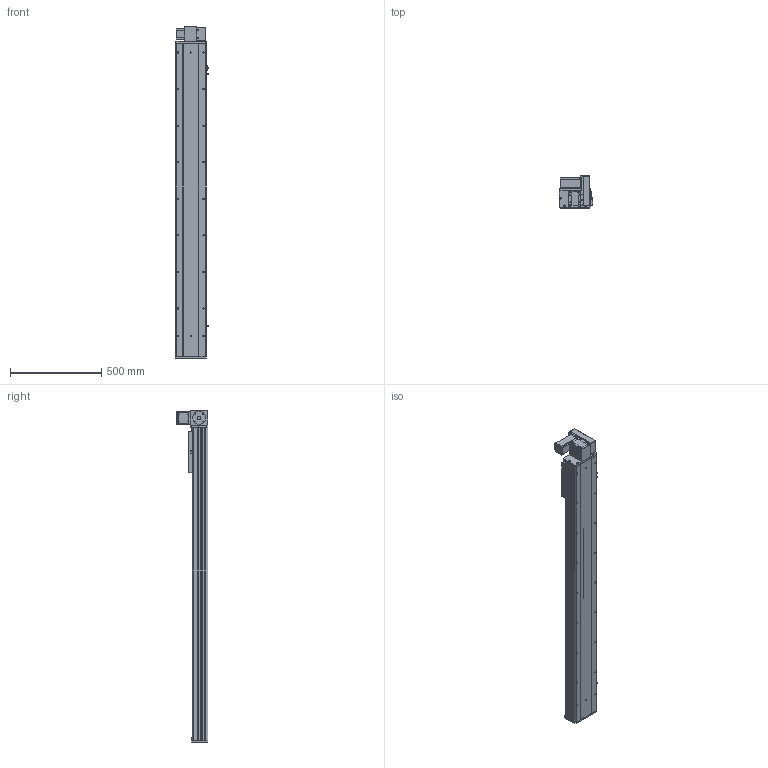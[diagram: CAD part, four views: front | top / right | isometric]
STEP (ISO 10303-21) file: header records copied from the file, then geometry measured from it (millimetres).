
FILE_DESCRIPTION (( 'STEP AP203' ), '1' );
FILE_NAME ('Y170CB-D105-S1400-UR-P400W.STEP', '2020-02-20T04:12:59', ( '微软用户' ), ( '微软中国' ), 'SwSTEP 2.0', 'SolidWorks 2017', '' );
FILE_SCHEMA (( 'CONFIG_CONTROL_DESIGN' ));
Length unit declared in the file: millimetre
Products named in the file (18): Y1埴倛裔; 70CB-耜裔啣-; 17B-耜蚾蟀諉啣----; 70C--詩湍揤踡え-; 00B-俋欶BM--163; 70CB--耜裔; 70B喘謫眊----; 70C-雄赽釱-奻-; B-源倛裔啣; Y170CB-D105-S1400-UR-P400W; 0C--雄赽釱俋欶-170; 0B-萇儂楊擘啣; 70CB-詩湍--; san松下电机400不带刹车----; Y100-135俋离換覜ん--; 70CB-掛极-; Y170CB-陔俋离換覜結え---; --70CB --喘謫眊楊擘啣-
Assembly tree (21 placements, depth 2):
  Y170CB-D105-S1400-UR-P400W
    B-源倛裔啣
    0B-萇儂楊擘啣
    san松下电机400不带刹车----
    70CB-掛极-
    --70CB --喘謫眊楊擘啣-
    70CB-耜裔啣-  x2
    70C--詩湍揤踡え-  x2
    70CB--耜裔
    70C-雄赽釱-奻-
    0C--雄赽釱俋欶-170
    70CB-詩湍--
    Y100-135俋离換覜ん--  x3
    Y170CB-陔俋离換覜結え---
    Y1埴倛裔
    17B-耜蚾蟀諉啣----
    00B-俋欶BM--163
    70B喘謫眊----
Bounding box: 183.5 x 174 x 1816 mm (x, y, z)
Volume: 8114502.9 mm3; surface area: 2917219.9 mm2
Topology: 21 solids, 21 shells, 1023 faces, 2741 edges, 1818 vertices
Faces by surface type: cylinder 537, plane 462, cone 24
Entity records: 32620 total; most frequent: CARTESIAN_POINT 5976, DIRECTION 5306, ORIENTED_EDGE 4964, EDGE_CURVE 2482, AXIS2_PLACEMENT_3D 1948, VERTEX_POINT 1648, VECTOR 1410, LINE 1410
